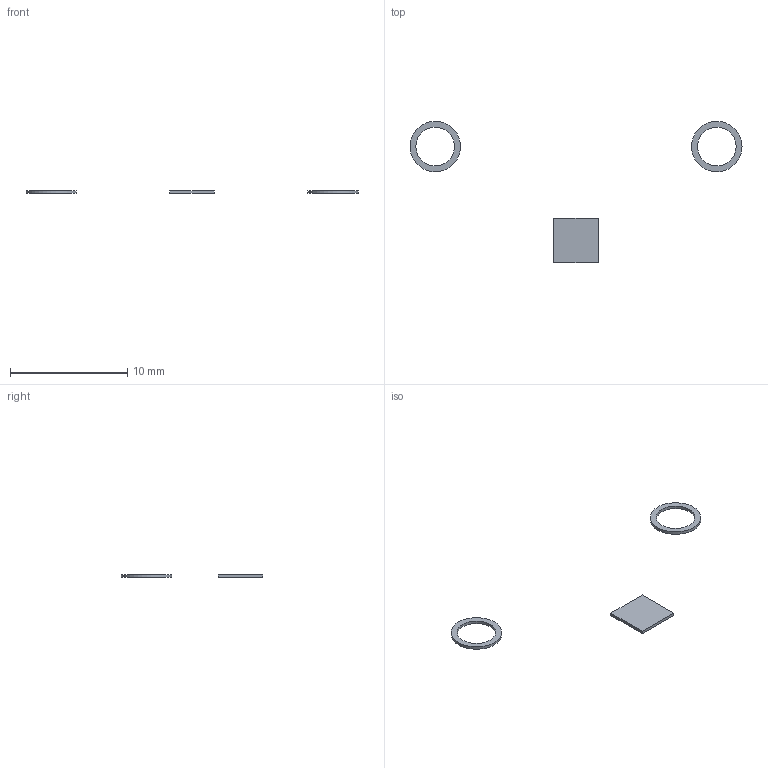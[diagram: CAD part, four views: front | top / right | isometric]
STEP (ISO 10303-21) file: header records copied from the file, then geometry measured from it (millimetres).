
FILE_DESCRIPTION(('Open CASCADE Model'),'2;1');
FILE_NAME('Open CASCADE Shape Model','2026-09-06T11:30:50',('Author'),( 'Open CASCADE'),'Open CASCADE STEP processor 7.7','Open CASCADE 7.7' ,'Unknown');
FILE_SCHEMA(('AUTOMOTIVE_DESIGN { 1 0 10303 214 1 1 1 1 }'));
Length unit declared in the file: millimetre
Products named in the file (4): Open CASCADE STEP translator 7.7 30; Open CASCADE STEP translator 7.7 30.1; Open CASCADE STEP translator 7.7 30.2; Open CASCADE STEP translator 7.7 30.3
Assembly tree (3 placements, depth 2):
  Open CASCADE STEP translator 7.7 30
    Open CASCADE STEP translator 7.7 30.1
    Open CASCADE STEP translator 7.7 30.2
    Open CASCADE STEP translator 7.7 30.3
Bounding box: 28.3 x 12.05 x 0.25 mm (x, y, z)
Volume: 6.6 mm3; surface area: 68.5 mm2
Topology: 3 solids, 3 shells, 14 faces, 24 edges, 16 vertices
Faces by surface type: plane 10, cylinder 4
Full cylindrical faces by diameter (mm): 3.3 x2, 4.3 x2
Entity records: 728 total; most frequent: CARTESIAN_POINT 130, DIRECTION 112, LINE 56, VECTOR 56, ORIENTED_EDGE 48, PCURVE 48, DEFINITIONAL_REPRESENTATION 48, AXIS2_PLACEMENT_3D 26
